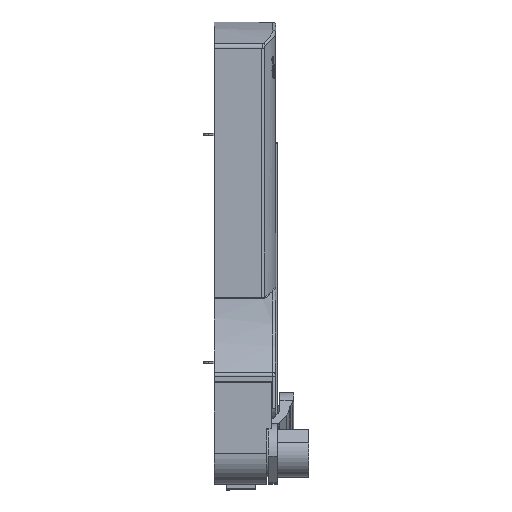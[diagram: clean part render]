
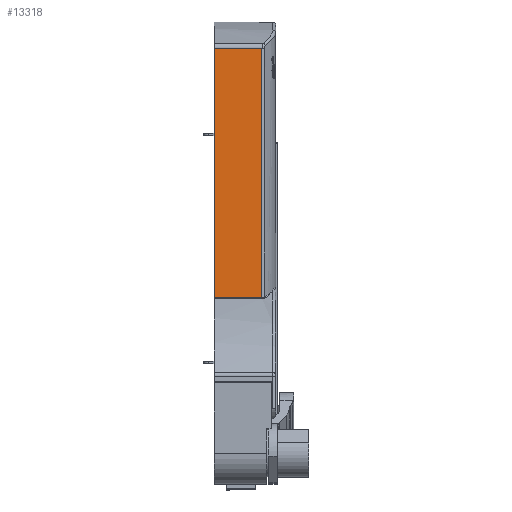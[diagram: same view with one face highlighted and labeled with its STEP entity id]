
A CAD part, top view. The second image highlights one B-rep face of the part: STEP entity #13318.
In plain terms, the highlighted planar face has unit normal (0, 0, 1).
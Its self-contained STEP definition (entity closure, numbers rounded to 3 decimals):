
#1567 = ORIENTED_EDGE ( 'NONE', *, *, #5215, .T. ) ;
#1568 = ORIENTED_EDGE ( 'NONE', *, *, #13195, .T. ) ;
#1569 = ORIENTED_EDGE ( 'NONE', *, *, #13197, .T. ) ;
#1570 = ORIENTED_EDGE ( 'NONE', *, *, #13200, .T. ) ;
#5215 = EDGE_CURVE ( 'NONE', #10290, #10295, #7174, .T. ) ;
#7174 = LINE ( 'NONE', #7186, #7285 ) ;
#7186 = CARTESIAN_POINT ( 'NONE',  ( 0., 101.957, 24.257 ) ) ;
#7194 = DIRECTION ( 'NONE',  ( 0., -1., 0. ) ) ;
#7285 = VECTOR ( 'NONE', #7194, 1000. ) ;
#8186 = CARTESIAN_POINT ( 'NONE',  ( 0., 208.25, 24.257 ) ) ;
#8195 = CARTESIAN_POINT ( 'NONE',  ( 0., 68.229, 24.257 ) ) ;
#10290 = VERTEX_POINT ( 'NONE', #8186 ) ;
#10295 = VERTEX_POINT ( 'NONE', #8195 ) ;
#11286 = EDGE_LOOP ( 'NONE', ( #1567, #1568, #1569, #1570 ) ) ;
#12296 = VERTEX_POINT ( 'NONE', #15642 ) ;
#12311 = VERTEX_POINT ( 'NONE', #15657 ) ;
#13195 = EDGE_CURVE ( 'NONE', #10295, #12296, #16056, .T. ) ;
#13197 = EDGE_CURVE ( 'NONE', #12296, #12311, #16052, .T. ) ;
#13200 = EDGE_CURVE ( 'NONE', #12311, #10290, #16057, .T. ) ;
#13318 = ADVANCED_FACE ( 'NONE', ( #16656 ), #16657, .F. ) ;
#15642 = CARTESIAN_POINT ( 'NONE',  ( 26.858, 68.229, 24.257 ) ) ;
#15657 = CARTESIAN_POINT ( 'NONE',  ( 26.858, 208.25, 24.257 ) ) ;
#16052 = LINE ( 'NONE', #16060, #16490 ) ;
#16054 = CARTESIAN_POINT ( 'NONE',  ( 53., 208.25, 24.257 ) ) ;
#16056 = LINE ( 'NONE', #16058, #16479 ) ;
#16057 = LINE ( 'NONE', #16054, #16491 ) ;
#16058 = CARTESIAN_POINT ( 'NONE',  ( 26.858, 68.229, 24.257 ) ) ;
#16059 = DIRECTION ( 'NONE',  ( 1., 0., 0. ) ) ;
#16060 = CARTESIAN_POINT ( 'NONE',  ( 26.858, 101.957, 24.257 ) ) ;
#16061 = DIRECTION ( 'NONE',  ( 0., 1., 0. ) ) ;
#16063 = DIRECTION ( 'NONE',  ( -1., 0., 0. ) ) ;
#16479 = VECTOR ( 'NONE', #16059, 1000. ) ;
#16490 = VECTOR ( 'NONE', #16061, 1000. ) ;
#16491 = VECTOR ( 'NONE', #16063, 1000. ) ;
#16653 = CARTESIAN_POINT ( 'NONE',  ( 53., 101.957, 24.257 ) ) ;
#16656 = FACE_OUTER_BOUND ( 'NONE', #11286, .T. ) ;
#16657 = PLANE ( 'NONE',  #17541 ) ;
#16659 = DIRECTION ( 'NONE',  ( 0., 0., -1. ) ) ;
#16660 = DIRECTION ( 'NONE',  ( -1., 0., 0. ) ) ;
#17541 = AXIS2_PLACEMENT_3D ( 'NONE', #16653, #16659, #16660 ) ;
